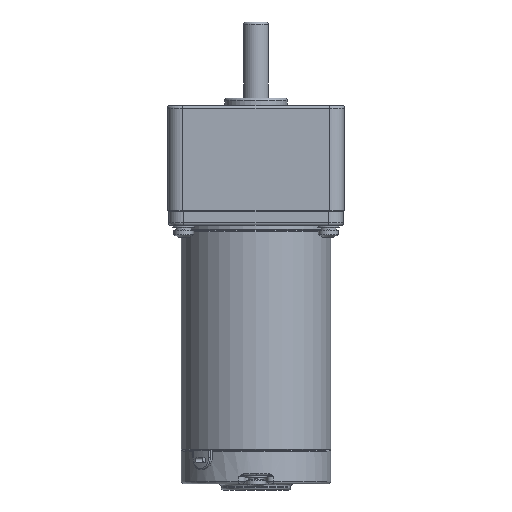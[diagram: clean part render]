
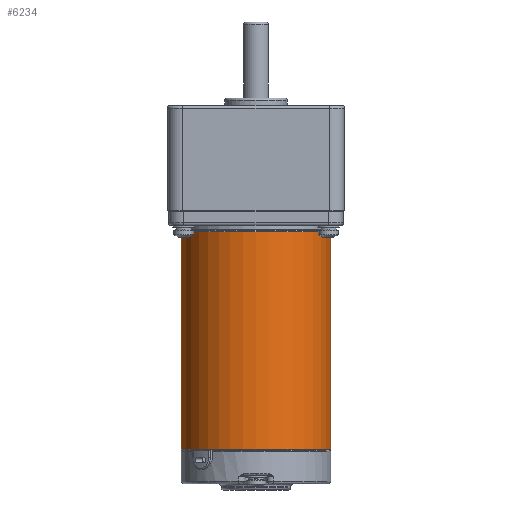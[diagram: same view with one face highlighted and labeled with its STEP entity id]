
A CAD part, front view. The second image highlights one B-rep face of the part: STEP entity #6234.
In plain terms, the highlighted cylindrical face has radius 30 mm (diameter 60 mm), a partial arc.
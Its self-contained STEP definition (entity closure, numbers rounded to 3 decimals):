
#133 = DIRECTION ( 'NONE',  ( 0., 0., 1. ) ) ;
#954 = DIRECTION ( 'NONE',  ( 0., 0., 1. ) ) ;
#974 = LINE ( 'NONE', #8097, #2761 ) ;
#1072 = CARTESIAN_POINT ( 'NONE',  ( 0., 0.3, 30. ) ) ;
#1309 = ORIENTED_EDGE ( 'NONE', *, *, #2261, .T. ) ;
#1536 = EDGE_CURVE ( 'NONE', #7623, #6459, #4849, .T. ) ;
#2261 = EDGE_CURVE ( 'NONE', #2699, #7623, #4627, .T. ) ;
#2699 = VERTEX_POINT ( 'NONE', #10367 ) ;
#2761 = VECTOR ( 'NONE', #11515, 1000. ) ;
#3024 = ORIENTED_EDGE ( 'NONE', *, *, #9295, .T. ) ;
#3293 = VERTEX_POINT ( 'NONE', #3337 ) ;
#3337 = CARTESIAN_POINT ( 'NONE',  ( 30., 0.3, 0. ) ) ;
#3708 = DIRECTION ( 'NONE',  ( 0., 1., 0. ) ) ;
#3887 = VECTOR ( 'NONE', #3708, 1000. ) ;
#4627 = LINE ( 'NONE', #8249, #3887 ) ;
#4682 = CARTESIAN_POINT ( 'NONE',  ( 0., 0.3, 0. ) ) ;
#4849 = CIRCLE ( 'NONE', #9778, 30. ) ;
#4862 = DIRECTION ( 'NONE',  ( 0., 0., 1. ) ) ;
#5079 = CARTESIAN_POINT ( 'NONE',  ( 0., 87.5, -30. ) ) ;
#5133 = ORIENTED_EDGE ( 'NONE', *, *, #1536, .T. ) ;
#5163 = EDGE_CURVE ( 'NONE', #5708, #6459, #974, .T. ) ;
#5291 = CIRCLE ( 'NONE', #8303, 30. ) ;
#5406 = DIRECTION ( 'NONE',  ( 0., 1., 0. ) ) ;
#5668 = DIRECTION ( 'NONE',  ( 0., 1., 0. ) ) ;
#5708 = VERTEX_POINT ( 'NONE', #1072 ) ;
#5730 = DIRECTION ( 'NONE',  ( 0., 0., 1. ) ) ;
#5756 = CYLINDRICAL_SURFACE ( 'NONE', #6821, 30. ) ;
#5876 = DIRECTION ( 'NONE',  ( 0., 1., 0. ) ) ;
#5987 = FACE_OUTER_BOUND ( 'NONE', #9715, .T. ) ;
#6234 = ADVANCED_FACE ( 'NONE', ( #5987 ), #5756, .T. ) ;
#6459 = VERTEX_POINT ( 'NONE', #11163 ) ;
#6605 = CARTESIAN_POINT ( 'NONE',  ( 0., 0.3, 0. ) ) ;
#6816 = CARTESIAN_POINT ( 'NONE',  ( 0., 0., 0. ) ) ;
#6821 = AXIS2_PLACEMENT_3D ( 'NONE', #6816, #5876, #4862 ) ;
#7541 = CIRCLE ( 'NONE', #9437, 30. ) ;
#7623 = VERTEX_POINT ( 'NONE', #5079 ) ;
#8097 = CARTESIAN_POINT ( 'NONE',  ( 0., 0., 30. ) ) ;
#8198 = CARTESIAN_POINT ( 'NONE',  ( 0., 87.5, 0. ) ) ;
#8249 = CARTESIAN_POINT ( 'NONE',  ( 0., 0., -30. ) ) ;
#8303 = AXIS2_PLACEMENT_3D ( 'NONE', #6605, #5668, #5730 ) ;
#9031 = DIRECTION ( 'NONE',  ( 0., -1., 0. ) ) ;
#9295 = EDGE_CURVE ( 'NONE', #5708, #3293, #5291, .T. ) ;
#9437 = AXIS2_PLACEMENT_3D ( 'NONE', #4682, #5406, #954 ) ;
#9715 = EDGE_LOOP ( 'NONE', ( #10641, #1309, #5133, #11506, #3024 ) ) ;
#9778 = AXIS2_PLACEMENT_3D ( 'NONE', #8198, #9031, #133 ) ;
#9920 = EDGE_CURVE ( 'NONE', #3293, #2699, #7541, .T. ) ;
#10367 = CARTESIAN_POINT ( 'NONE',  ( 0., 0.3, -30. ) ) ;
#10641 = ORIENTED_EDGE ( 'NONE', *, *, #9920, .T. ) ;
#11163 = CARTESIAN_POINT ( 'NONE',  ( 0., 87.5, 30. ) ) ;
#11506 = ORIENTED_EDGE ( 'NONE', *, *, #5163, .F. ) ;
#11515 = DIRECTION ( 'NONE',  ( 0., 1., 0. ) ) ;
